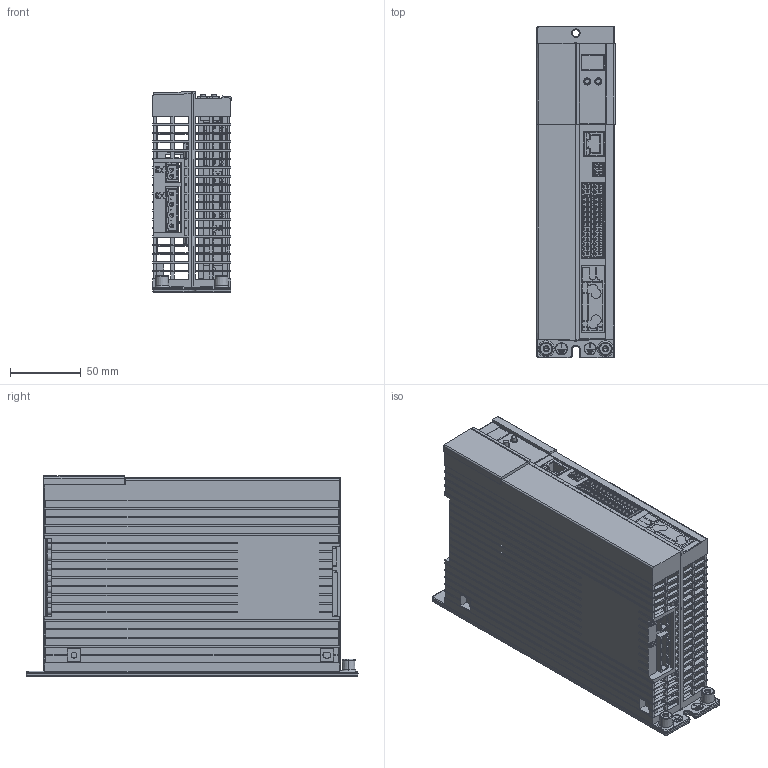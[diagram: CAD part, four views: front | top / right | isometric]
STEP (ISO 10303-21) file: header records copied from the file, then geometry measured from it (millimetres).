
FILE_DESCRIPTION(/* description */ (''),/* implementation_level */ '2;1');
FILE_NAME(/* name */ 'CB06130-001',/* time_stamp */ '2010-05-19T13:29:22+02:00',/* author */ (''),/* organization */ (''),/* preprocessor_version */ 'ST-DEVELOPER v9',/* originating_system */ 'UGS - NX 4.0',/* authorisation */ '');
FILE_SCHEMA (('AUTOMOTIVE_DESIGN { 1 0 10303 214 1 1 1 1 }'));
Products named in the file (1): sdumD3D5noac
Bounding box: 55.4 x 235 x 141.99 mm (x, y, z)
Volume: 242934.5 mm3; surface area: 238505.8 mm2
Topology: 25 solids, 26 shells, 6057 faces, 16009 edges, 10216 vertices
Faces by surface type: plane 4412, cylinder 1032, bspline 241, cone 239, torus 67, sphere 66
Entity records: 224385 total; most frequent: CARTESIAN_POINT 47723, ORIENTED_EDGE 31934, DIRECTION 29182, EDGE_CURVE 15967, LINE 12690, VECTOR 12690, VERTEX_POINT 10213, AXIS2_PLACEMENT_3D 8246
